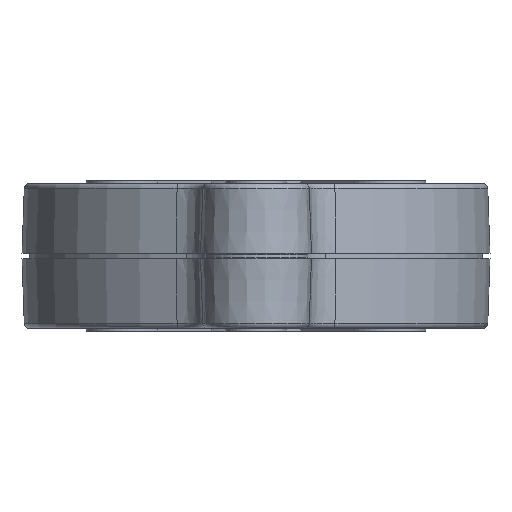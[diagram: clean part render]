
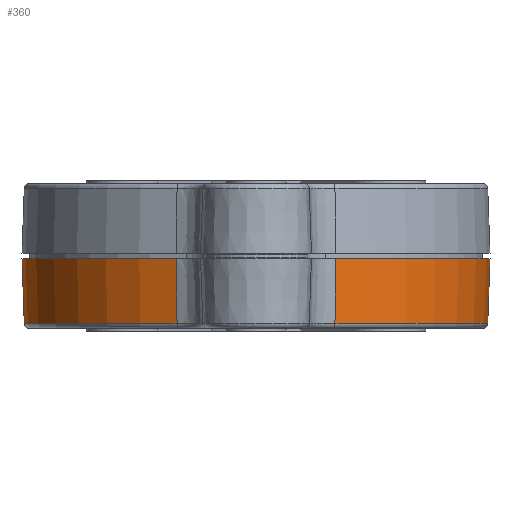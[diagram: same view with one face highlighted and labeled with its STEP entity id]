
A CAD part, front view. The second image highlights one B-rep face of the part: STEP entity #360.
In plain terms, the highlighted conical face has half-angle 2 degrees and reference radius 44.45 mm.
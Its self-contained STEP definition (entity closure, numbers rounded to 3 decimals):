
#37=CONICAL_SURFACE('',#2653,44.45,2.);
#256=CIRCLE('',#2604,44.45);
#286=CIRCLE('',#2652,44.021);
#360=ADVANCED_FACE('',(#550),#37,.T.);
#550=FACE_OUTER_BOUND('',#709,.T.);
#709=EDGE_LOOP('',(#1076,#1077,#1078,#1079));
#1076=ORIENTED_EDGE('',*,*,#1972,.T.);
#1077=ORIENTED_EDGE('',*,*,#1973,.T.);
#1078=ORIENTED_EDGE('',*,*,#1965,.F.);
#1079=ORIENTED_EDGE('',*,*,#1897,.F.);
#1651=VERTEX_POINT('',#3847);
#1652=VERTEX_POINT('',#3848);
#1703=VERTEX_POINT('',#3982);
#1707=VERTEX_POINT('',#3996);
#1897=EDGE_CURVE('',#1651,#1652,#256,.T.);
#1965=EDGE_CURVE('',#1652,#1703,#2212,.T.);
#1972=EDGE_CURVE('',#1651,#1707,#2217,.T.);
#1973=EDGE_CURVE('',#1707,#1703,#286,.T.);
#2212=LINE('',#3981,#2410);
#2217=LINE('',#3995,#2415);
#2410=VECTOR('',#3134,1.);
#2415=VECTOR('',#3149,1.);
#2604=AXIS2_PLACEMENT_3D('',#3846,#3008,#3009);
#2652=AXIS2_PLACEMENT_3D('',#3997,#3150,#3151);
#2653=AXIS2_PLACEMENT_3D('',#3998,#3152,#3153);
#3008=DIRECTION('',(0.,0.,1.));
#3009=DIRECTION('',(0.,1.,0.));
#3134=DIRECTION('',(0.012,0.033,-0.999));
#3149=DIRECTION('',(-0.012,0.033,-0.999));
#3150=DIRECTION('',(0.,0.,1.));
#3151=DIRECTION('',(-1.,0.,0.));
#3152=DIRECTION('',(0.,0.,1.));
#3153=DIRECTION('',(1.,0.,0.));
#3846=CARTESIAN_POINT('',(0.,0.,13.25));
#3847=CARTESIAN_POINT('',(15.145,-41.79,13.25));
#3848=CARTESIAN_POINT('',(-15.145,-41.79,13.25));
#3981=CARTESIAN_POINT('',(-15.145,-41.79,13.25));
#3982=CARTESIAN_POINT('',(-14.999,-41.387,0.965));
#3995=CARTESIAN_POINT('',(15.145,-41.79,13.25));
#3996=CARTESIAN_POINT('',(14.999,-41.387,0.965));
#3997=CARTESIAN_POINT('',(0.,0.,0.965));
#3998=CARTESIAN_POINT('',(0.,0.,13.25));
